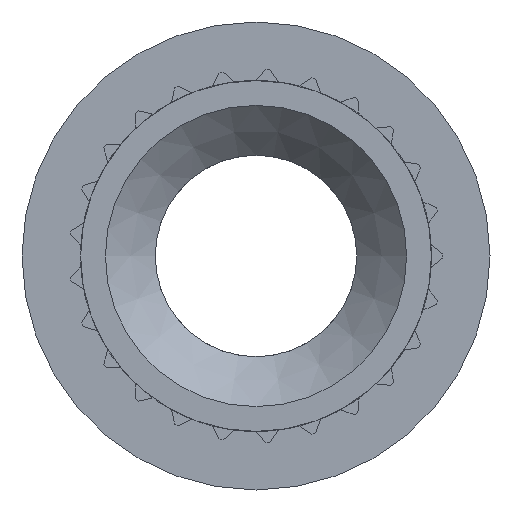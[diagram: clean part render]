
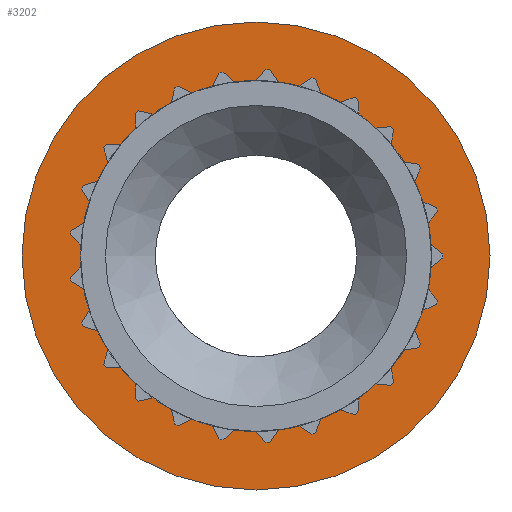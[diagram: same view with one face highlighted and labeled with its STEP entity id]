
A CAD part, left-side view. The second image highlights one B-rep face of the part: STEP entity #3202.
In plain terms, the highlighted planar face has unit normal (-1, 0, 0).
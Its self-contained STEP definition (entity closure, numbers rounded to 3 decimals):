
#19=FACE_BOUND($,#610,.T.);
#217=CIRCLE($,#3559,1.79);
#218=CIRCLE($,#3561,2.388);
#411=FACE_OUTER_BOUND($,#609,.T.);
#609=EDGE_LOOP($,(#2830));
#610=EDGE_LOOP($,(#2831));
#1473=VERTEX_POINT($,#5496);
#1474=VERTEX_POINT($,#5499);
#1930=EDGE_CURVE($,#1473,#1473,#217,.T.);
#1931=EDGE_CURVE($,#1474,#1474,#218,.T.);
#2830=ORIENTED_EDGE($,*,*,#1931,.F.);
#2831=ORIENTED_EDGE($,*,*,#1930,.T.);
#3011=PLANE($,#3560);
#3202=ADVANCED_FACE($,(#411,#19),#3011,.T.);
#3559=AXIS2_PLACEMENT_3D($,#5497,#4560,#4561);
#3560=AXIS2_PLACEMENT_3D($,#5498,#4562,#4563);
#3561=AXIS2_PLACEMENT_3D($,#5500,#4564,#4565);
#4560=DIRECTION('center_axis',(1.,0.,0.));
#4561=DIRECTION('ref_axis',(0.,1.,0.));
#4562=DIRECTION('center_axis',(-1.,0.,0.));
#4563=DIRECTION('ref_axis',(0.,0.,1.));
#4564=DIRECTION('center_axis',(1.,0.,0.));
#4565=DIRECTION('ref_axis',(0.,1.,0.));
#5496=CARTESIAN_POINT('',(3.581,1.79,0.));
#5497=CARTESIAN_POINT('Origin',(3.581,0.,0.));
#5498=CARTESIAN_POINT('Origin',(3.581,2.089,0.));
#5499=CARTESIAN_POINT('',(3.581,2.388,0.));
#5500=CARTESIAN_POINT('Origin',(3.581,0.,0.));
